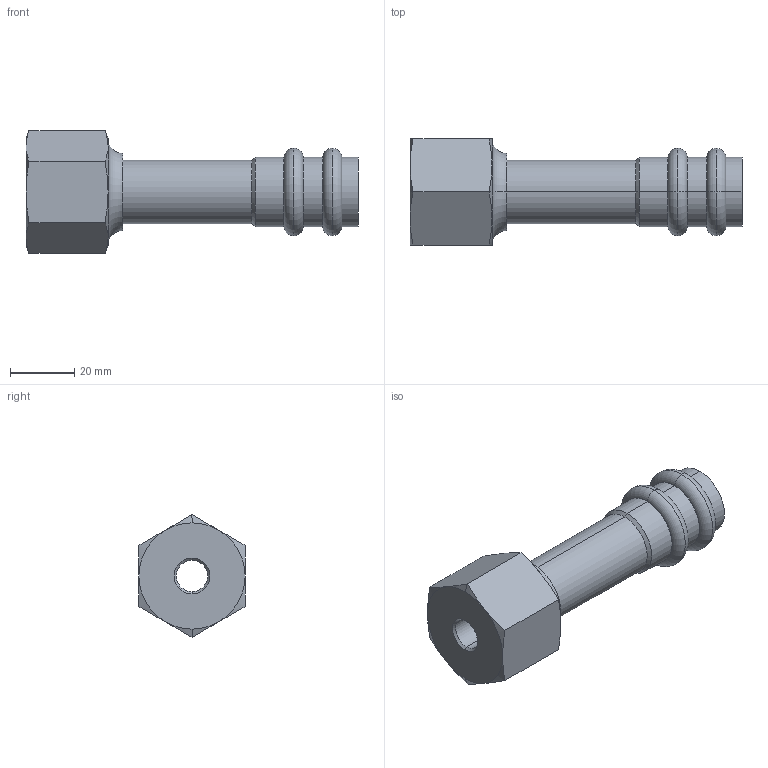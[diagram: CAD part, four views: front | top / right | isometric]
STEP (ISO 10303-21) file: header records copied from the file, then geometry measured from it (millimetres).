
FILE_DESCRIPTION(('starvars output'),'1');
FILE_NAME('cv20240422105156000011686.stp','10:51:57 2024/04/22',('Thomas Industrial Network Germany GmbH'),(' '),'Spatial InterOp 3D',' ',' ');
FILE_SCHEMA(('AUTOMOTIVE_DESIGN { 1 0 10303 214 3 1 1 }'));
Length unit declared in the file: millimetre
Products named in the file (1): 1
Bounding box: 103.17 x 33 x 38.11 mm (x, y, z)
Volume: 28802.1 mm3; surface area: 16186.7 mm2
Topology: 1 solids, 1 shells, 78 faces, 160 edges, 94 vertices
Faces by surface type: cone 24, torus 18, cylinder 18, plane 18
Entity records: 2736 total; most frequent: CARTESIAN_POINT 429, DIRECTION 394, ORIENTED_EDGE 320, AXIS2_PLACEMENT_3D 179, EDGE_CURVE 160, CIRCLE 100, VERTEX_POINT 94, EDGE_LOOP 90
